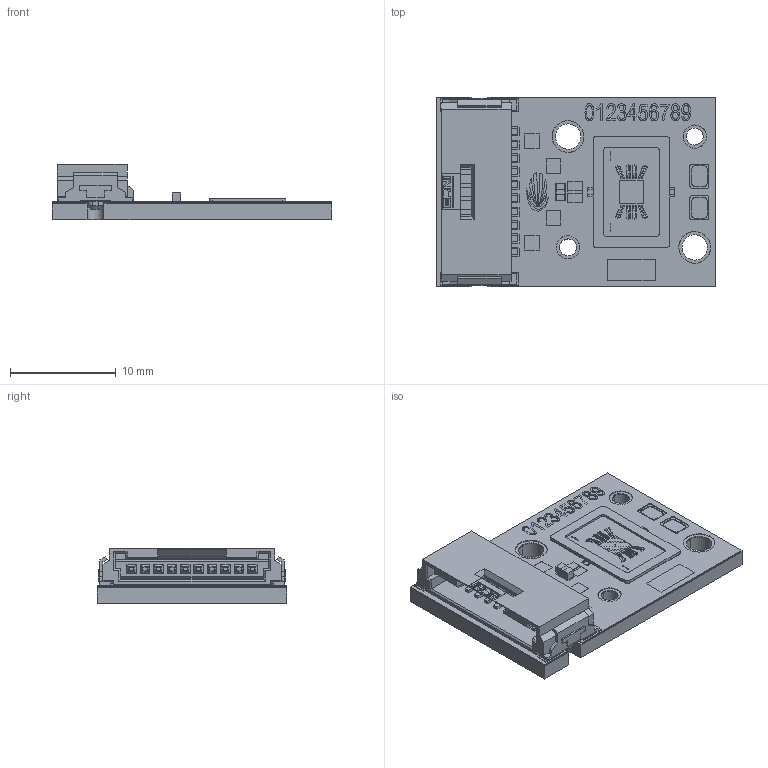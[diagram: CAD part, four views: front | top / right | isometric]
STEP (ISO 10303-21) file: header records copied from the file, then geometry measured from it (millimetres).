
FILE_DESCRIPTION(/* description */ (''),/* implementation_level */ '2;1');
FILE_NAME(/* name */ 'STEC7C3',/* time_stamp */ '2025-01-14T14:18:23+08:00',/* author */ (''),/* organization */ (''),/* preprocessor_version */ 'ST-DEVELOPER v16.5',/* originating_system */ '',/* authorisation */ '');
FILE_SCHEMA (('CONFIG_CONTROL_DESIGN'));
Length unit declared in the file: millimetre
Products named in the file (2): Document; 图块 01
Assembly tree (1 placements, depth 2):
  Document
    图块 01
Bounding box: 26.5 x 18 x 5.23 mm (x, y, z)
Volume: 1049.9 mm3; surface area: 1807 mm2
Topology: 5 solids, 5 shells, 1564 faces, 3812 edges, 2514 vertices
Faces by surface type: plane 838, cylinder 542, bspline 184
Entity records: 58499 total; most frequent: CARTESIAN_POINT 25970, ORIENTED_EDGE 7624, EDGE_CURVE 3812, B_SPLINE_CURVE_WITH_KNOTS 2785, VERTEX_POINT 2514, EDGE_LOOP 1878, ADVANCED_FACE 1564, FACE_OUTER_BOUND 1564
